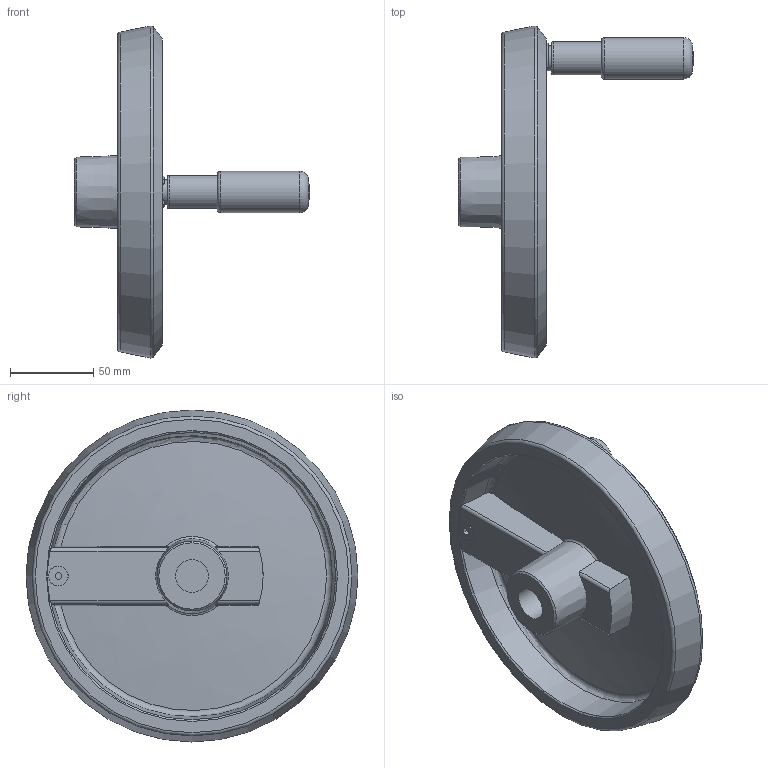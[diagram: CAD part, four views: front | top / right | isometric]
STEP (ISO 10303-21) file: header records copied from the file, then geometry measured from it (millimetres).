
FILE_DESCRIPTION( ( 'STEP AP203' ), '1' );
FILE_NAME( 'C:/Temp/Ganter_Step_05_03_2020/data/1_3/gn_923_7/gn_923_7_b/Handwheel with retractable handle GN 923.7-200-B20-R-SR (activated).stp', '2020-03-05T10:40:16', ( 'License CC BY-ND 4.0' ), ( 'CADENAS' ), ' ', 'PARTsolutions', ' ' );
FILE_SCHEMA( ( 'CONFIG_CONTROL_DESIGN' ) );
Length unit declared in the file: millimetre
Products named in the file (3): Handwheel with retractable handle GN 923.7-200-B20-R-SR (activated); _Umleggriff-Handrad GN 923.7-200-B20-R-SR-1; _Umleggriff-Handrad GN 923.7-200-B20-R-SR (90)-2
Assembly tree (2 placements, depth 2):
  Handwheel with retractable handle GN 923.7-200-B20-R-SR (activated)
    _Umleggriff-Handrad GN 923.7-200-B20-R-SR-1
    _Umleggriff-Handrad GN 923.7-200-B20-R-SR (90)-2
Bounding box: 141.7 x 200 x 200 mm (x, y, z)
Volume: 402907.8 mm3; surface area: 108969.9 mm2
Topology: 2 solids, 2 shells, 109 faces, 263 edges, 167 vertices
Faces by surface type: plane 44, cylinder 29, cone 14, torus 14, bspline 6, sphere 2
Full cylindrical faces by diameter (mm): 4 x2, 5 x1, 8 x1, 12 x1, 15 x1, 20 x3, 23 x2, 25 x1
Entity records: 3545 total; most frequent: CARTESIAN_POINT 1068, DIRECTION 495, ORIENTED_EDGE 456, EDGE_CURVE 228, AXIS2_PLACEMENT_3D 211, VERTEX_POINT 162, EDGE_LOOP 149, FACE_OUTER_BOUND 128
